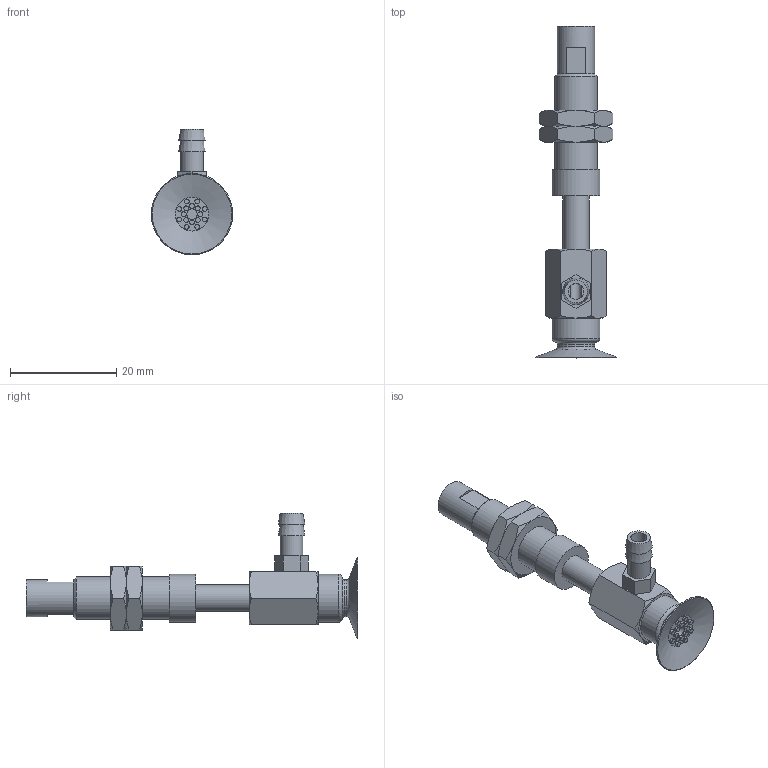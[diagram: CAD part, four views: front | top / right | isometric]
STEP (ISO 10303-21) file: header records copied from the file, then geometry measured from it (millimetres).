
FILE_DESCRIPTION(('STEP AP203'),'1');
FILE_NAME('-T.stp','2025-02-13T07:50:51',(' '),(' '),'Spatial InterOp 3D',' ',' ');
FILE_SCHEMA(('CONFIG_CONTROL_DESIGN'));
Length unit declared in the file: millimetre
Products named in the file (7): BNABPAYS-15A-10-※-T; NAPAYS-10A-10--M; NAPAYS-10A-10--F; Nut-10A-S; CONNECTOR-10A-10-PA; BPAG-15A-※_3D; T
Assembly tree (7 placements, depth 2):
  BNABPAYS-15A-10-※-T
    NAPAYS-10A-10--M
    NAPAYS-10A-10--F
    Nut-10A-S  x2
    CONNECTOR-10A-10-PA
    BPAG-15A-※_3D
    T
Bounding box: 15.3 x 62.5 x 23.65 mm (x, y, z)
Volume: 3700.6 mm3; surface area: 4824 mm2
Topology: 7 solids, 7 shells, 178 faces, 351 edges, 216 vertices
Faces by surface type: plane 79, cone 53, cylinder 37, torus 9
Full cylindrical faces by diameter (mm): 0.9 x16, 2 x2, 3 x1, 4 x2, 4.134 x2, 4.3 x1, 5 x4, 6 x2, 7 x2, 7.188 x2, 8 x1, 9 x2
Entity records: 4210 total; most frequent: CARTESIAN_POINT 929, DIRECTION 634, ORIENTED_EDGE 474, AXIS2_PLACEMENT_3D 288, EDGE_LOOP 254, EDGE_CURVE 237, FACE_OUTER_BOUND 200, VERTEX_POINT 181
